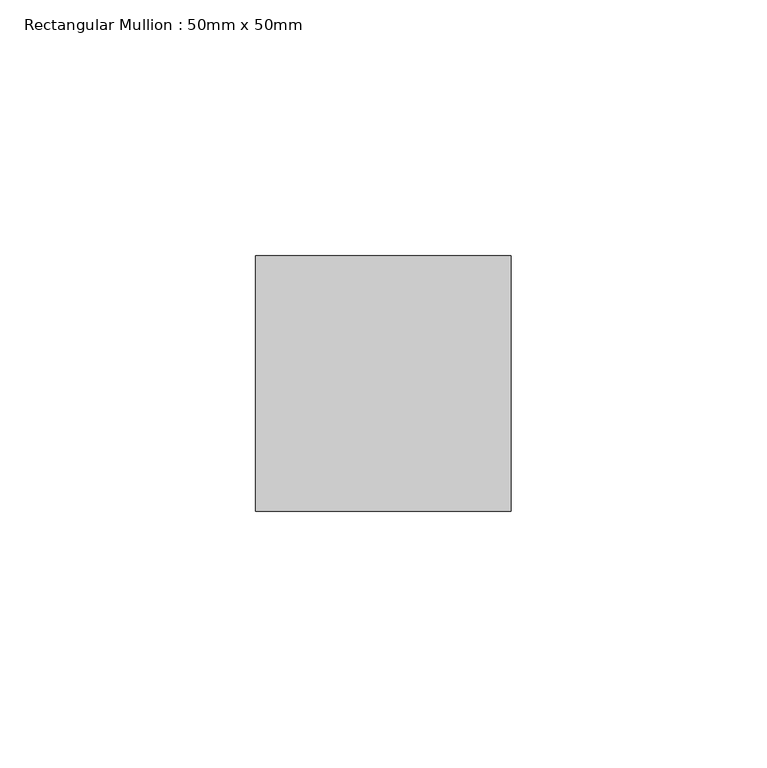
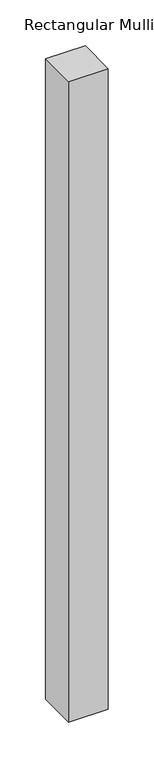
"""IFC4 building model written with IfcOpenShell, lengths in millimetres: member geometry, Rectangular Mullion : 50mm x 50mm."""

from ifc_helpers import new_model, si_unit, frame, origin, place, context, project, spatial, polyline, outline, extrude, source, transform, mapped, element, save


def rectangular_mullion_50mm_x_50mm_39fa6421(model_context):
    return source(origin(), model_context, "Body", "SweptSolid", [
        extrude(outline(polyline([(25.0, 25.0), (25.0, -25.0), (-25.0, -25.0), (-25.0, 25.0), (25.0, 25.0)])), frame((0.0, 0.0, -852.8830643), z_axis=(0.0, 0.0, 1.0), x_axis=(1.0, 0.0, 0.0)), (0.0, 0.0, 1.0), 852.8830643),
    ])


if __name__ == "__main__":
    model = new_model("IFC4")
    model_context = context("Model", 3, world=origin())
    ifc_project = project(units=[si_unit("LENGTHUNIT", "METRE", prefix="MILLI")], contexts=[model_context])
    site = spatial("IfcSite", under=ifc_project)
    building = spatial("IfcBuilding", under=site)
    placement = place(None, origin())
    rectangular_mullion_50mm_x_50mm_shape = rectangular_mullion_50mm_x_50mm_39fa6421(model_context)
    element("IfcMember", 1, ObjectType="Rectangular Mullion : 50mm x 50mm", at=placement, inside=building, context=model_context, shape_type="MappedRepresentation", body=[
        mapped(rectangular_mullion_50mm_x_50mm_shape, transform((0.0, 0.0, 0.0), x_axis=(1.0, 0.0, 0.0), y_axis=(0.0, 1.0, 0.0), z_axis=(0.0, 0.0, 1.0))),
    ])
    save(model, "model.ifc")
